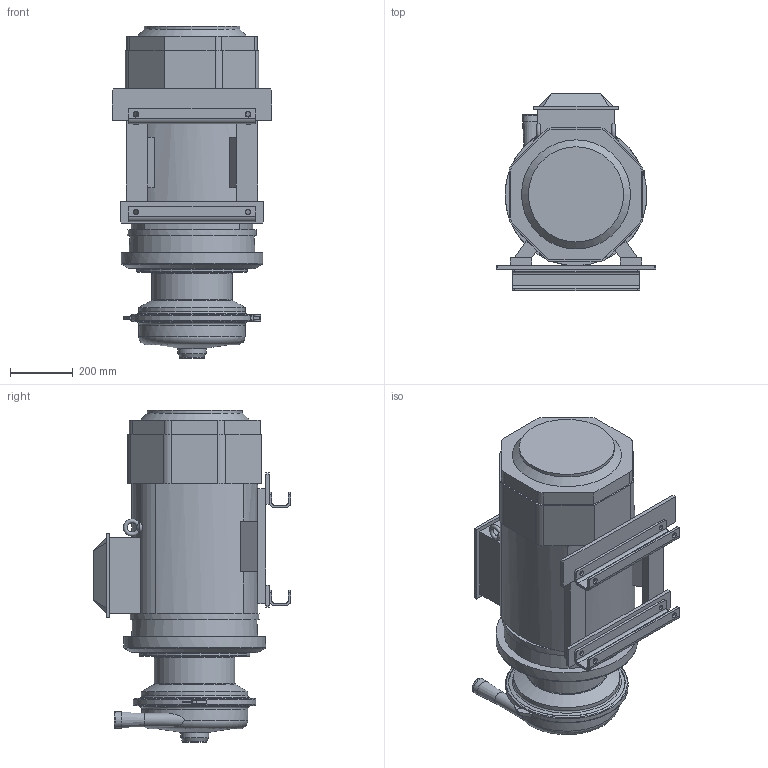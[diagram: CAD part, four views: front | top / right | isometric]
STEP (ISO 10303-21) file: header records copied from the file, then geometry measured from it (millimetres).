
FILE_DESCRIPTION((''),'2;1');
FILE_NAME('T:\_Engineering\Read Only\Products\Pumps\_W+_MODELS\# Pump_models\W+_models_assembly\W+_models_assembly\IPT\W+80-80_225(SMA2(D)-SMB2(D))_BRACKET-A_NSRD_Shrinkwrap.ipt.step','2014-06-10T02:13:15',(''),(''),'Autodesk Inventor 2012','Autodesk Inventor 2012','');
FILE_SCHEMA(('CONFIG_CONTROL_DESIGN'));
Length unit declared in the file: millimetre
Products named in the file (1): W+80-80_225(SMA2(D)-SMB2(D))_BRACKET-A_NSRD_Shrinkwrap
Bounding box: 506 x 627 x 1054 mm (x, y, z)
Volume: 131268184.8 mm3; surface area: 2770793.9 mm2
Topology: 1 solids, 3 shells, 310 faces, 812 edges, 522 vertices
Faces by surface type: plane 175, cylinder 92, cone 28, torus 15
Full cylindrical faces by diameter (mm): 10 x1, 15 x4, 16.5 x4, 18 x4, 18.5 x8, 42.6 x1, 51.6 x1, 55 x1, 72.8 x1, 76.6 x1, 89 x1, 242 x1, 250 x1, 256 x1, 302.154 x1, 320 x1, 327 x1, 337 x1, 338 x1, 350 x1, 410 x1, 450 x1
Entity records: 9788 total; most frequent: CARTESIAN_POINT 2050, DIRECTION 1548, ORIENTED_EDGE 1450, EDGE_CURVE 725, AXIS2_PLACEMENT_3D 564, VERTEX_POINT 502, EDGE_LOOP 423, VECTOR 420
